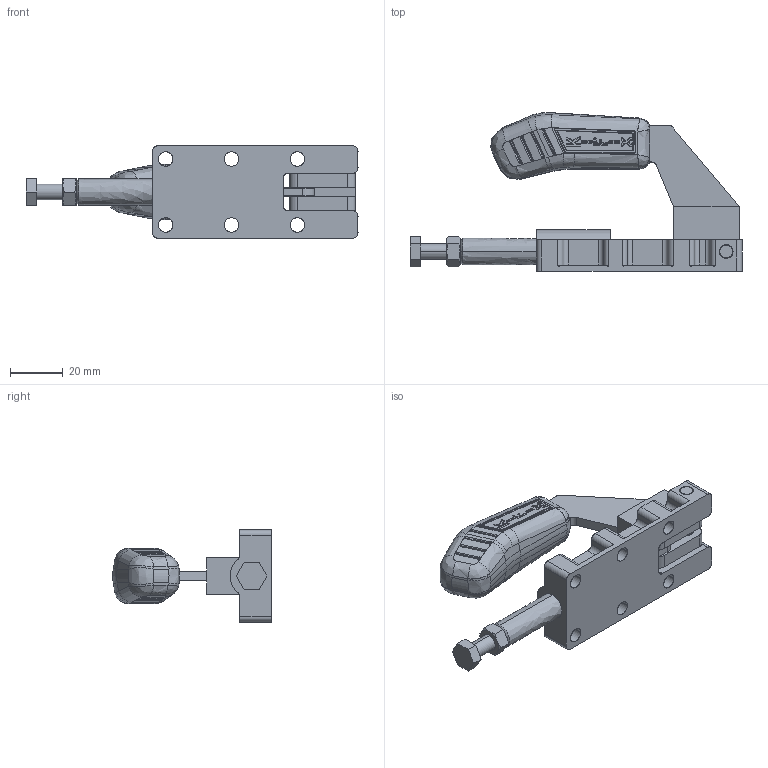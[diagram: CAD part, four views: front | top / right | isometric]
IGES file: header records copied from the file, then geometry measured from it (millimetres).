
Start section: SolidWorks IGES file using analytic representation for surfaces
Global section: file name: C:\Projetos\Grampos\KF-305\KF-305\KF-305.IGS; native system: SolidWorks 2013; preprocessor: SolidWorks 2013; author: Ricardo; date: 140825.142216; units: millimetre
Bounding box: 126 x 60.26 x 35 mm (x, y, z)
Surface area: 29732.8 mm2 (no closed solid volume)
Topology: 0 solids, 0 shells, 847 faces, 8748 edges, 8692 vertices
Faces by surface type: bspline 488, revolution 359
